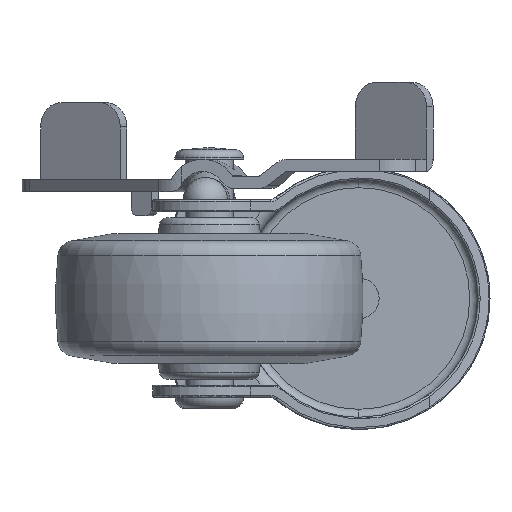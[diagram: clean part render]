
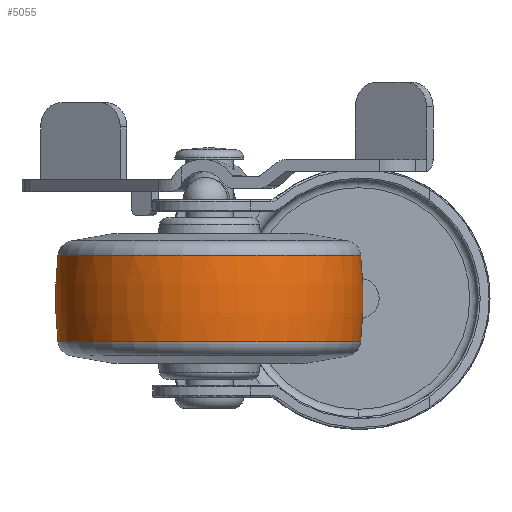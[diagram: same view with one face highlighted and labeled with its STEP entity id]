
A CAD part, front view. The second image highlights one B-rep face of the part: STEP entity #5055.
In plain terms, the highlighted toroidal (fillet/blend) face has major radius 31 mm and minor radius 50 mm.
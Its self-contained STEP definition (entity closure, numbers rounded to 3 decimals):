
#209 = CARTESIAN_POINT ( 'NONE',  ( 0., 0., 0. ) ) ;
#372 = ORIENTED_EDGE ( 'NONE', *, *, #3881, .T. ) ;
#403 = DIRECTION ( 'NONE',  ( -1., 0., 0. ) ) ;
#496 = ORIENTED_EDGE ( 'NONE', *, *, #9706, .T. ) ;
#1012 = CARTESIAN_POINT ( 'NONE',  ( 0., 0., -5.35 ) ) ;
#1405 = CARTESIAN_POINT ( 'NONE',  ( 18.713, 0., 5.35 ) ) ;
#1410 = AXIS2_PLACEMENT_3D ( 'NONE', #11003, #2774, #8251 ) ;
#1527 = CIRCLE ( 'NONE', #1410, 50. ) ;
#1783 = CIRCLE ( 'NONE', #10882, 18.713 ) ;
#1885 = CIRCLE ( 'NONE', #8629, 18.713 ) ;
#2018 = DIRECTION ( 'NONE',  ( 0., 0., 1. ) ) ;
#2284 = DIRECTION ( 'NONE',  ( 0., 1., 0. ) ) ;
#2590 = EDGE_CURVE ( 'NONE', #4256, #9934, #2662, .T. ) ;
#2662 = CIRCLE ( 'NONE', #4323, 50. ) ;
#2732 = ORIENTED_EDGE ( 'NONE', *, *, #7716, .F. ) ;
#2774 = DIRECTION ( 'NONE',  ( 0., -1., 0. ) ) ;
#3207 = FACE_OUTER_BOUND ( 'NONE', #11273, .T. ) ;
#3493 = TOROIDAL_SURFACE ( 'NONE', #4118, -31., 50. ) ;
#3779 = DIRECTION ( 'NONE',  ( 0., 0., 1. ) ) ;
#3881 = EDGE_CURVE ( 'NONE', #4256, #9896, #1783, .T. ) ;
#3923 = CARTESIAN_POINT ( 'NONE',  ( 18.713, 0., -5.35 ) ) ;
#4118 = AXIS2_PLACEMENT_3D ( 'NONE', #209, #3779, #9410 ) ;
#4125 = VERTEX_POINT ( 'NONE', #1405 ) ;
#4225 = CARTESIAN_POINT ( 'NONE',  ( -18.713, 0., -5.35 ) ) ;
#4256 = VERTEX_POINT ( 'NONE', #4225 ) ;
#4323 = AXIS2_PLACEMENT_3D ( 'NONE', #7668, #2284, #403 ) ;
#4684 = CARTESIAN_POINT ( 'NONE',  ( 0., 0., 5.35 ) ) ;
#5055 = ADVANCED_FACE ( 'NONE', ( #3207 ), #3493, .T. ) ;
#5585 = DIRECTION ( 'NONE',  ( 0., 0., 1. ) ) ;
#5627 = DIRECTION ( 'NONE',  ( 1., 0., 0. ) ) ;
#7668 = CARTESIAN_POINT ( 'NONE',  ( 31., 0., 0. ) ) ;
#7716 = EDGE_CURVE ( 'NONE', #9934, #4125, #1885, .T. ) ;
#8251 = DIRECTION ( 'NONE',  ( 0., 0., -1. ) ) ;
#8629 = AXIS2_PLACEMENT_3D ( 'NONE', #4684, #2018, #11129 ) ;
#9410 = DIRECTION ( 'NONE',  ( 1., 0., 0. ) ) ;
#9706 = EDGE_CURVE ( 'NONE', #9896, #4125, #1527, .T. ) ;
#9896 = VERTEX_POINT ( 'NONE', #3923 ) ;
#9934 = VERTEX_POINT ( 'NONE', #11375 ) ;
#10882 = AXIS2_PLACEMENT_3D ( 'NONE', #1012, #5585, #5627 ) ;
#11003 = CARTESIAN_POINT ( 'NONE',  ( -31., 0., 0. ) ) ;
#11129 = DIRECTION ( 'NONE',  ( 1., 0., 0. ) ) ;
#11273 = EDGE_LOOP ( 'NONE', ( #11855, #372, #496, #2732 ) ) ;
#11375 = CARTESIAN_POINT ( 'NONE',  ( -18.713, 0., 5.35 ) ) ;
#11855 = ORIENTED_EDGE ( 'NONE', *, *, #2590, .F. ) ;
